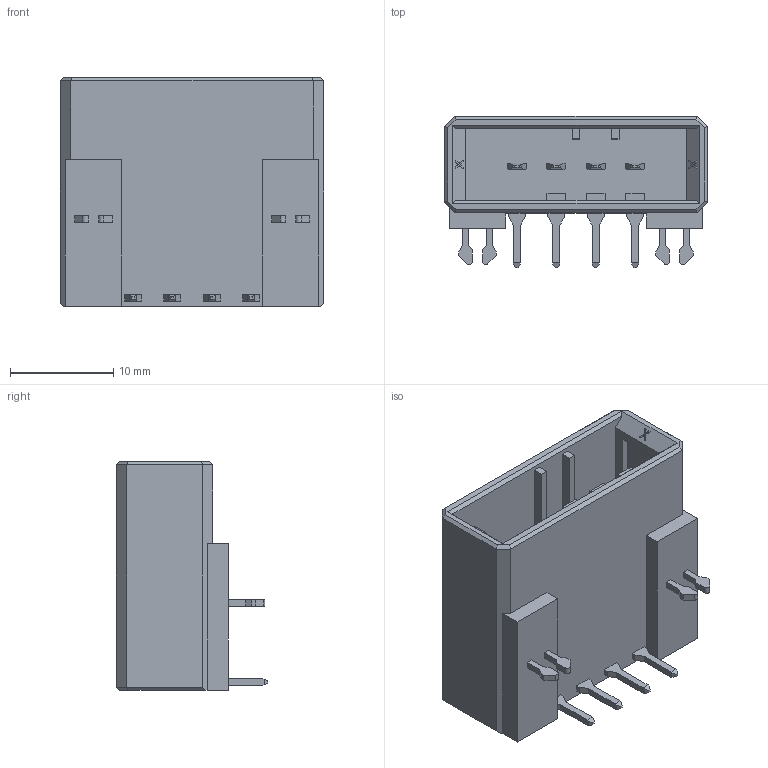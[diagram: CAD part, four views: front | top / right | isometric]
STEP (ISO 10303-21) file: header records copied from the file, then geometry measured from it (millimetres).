
FILE_DESCRIPTION (( 'STEP AP203' ), '1' );
FILE_NAME ('DK-3100S-04H-FA.STEP', '2023-10-16T07:17:33', ( '' ), ( '' ), 'SwSTEP 2.0', 'SolidWorks 2018', '' );
FILE_SCHEMA (( 'CONFIG_CONTROL_DESIGN' ));
Length unit declared in the file: millimetre
Products named in the file (1): DK-3100S-04H-FA
Bounding box: 25.43 x 14.65 x 22.1 mm (x, y, z)
Volume: 3006.6 mm3; surface area: 3480.8 mm2
Topology: 1 solids, 1 shells, 467 faces, 1287 edges, 854 vertices
Faces by surface type: plane 337, bspline 106, cylinder 24
Entity records: 17758 total; most frequent: CARTESIAN_POINT 6587, ORIENTED_EDGE 2574, DIRECTION 1783, EDGE_CURVE 1287, LINE 1027, VECTOR 1027, VERTEX_POINT 854, EDGE_LOOP 499
